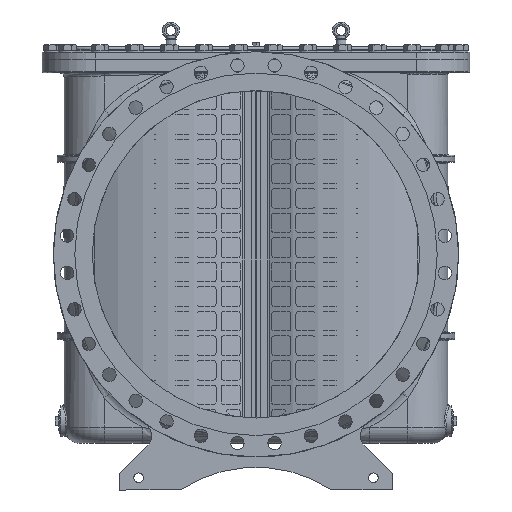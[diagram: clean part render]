
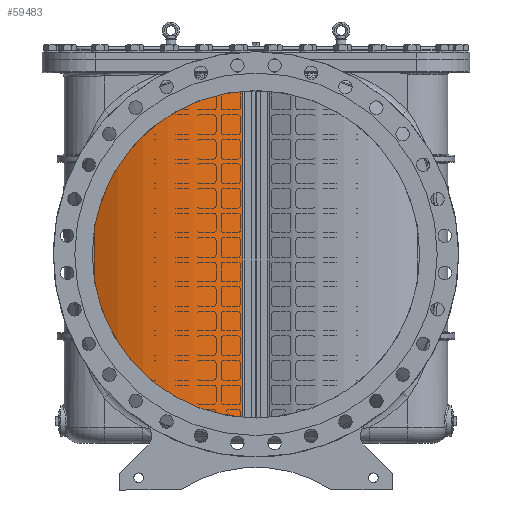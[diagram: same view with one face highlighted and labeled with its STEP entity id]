
A CAD part, front view. The second image highlights one B-rep face of the part: STEP entity #59483.
In plain terms, the highlighted cylindrical face has radius 590 mm (diameter 1180 mm), a partial arc.
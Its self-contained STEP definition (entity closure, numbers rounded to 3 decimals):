
#8647=FACE_OUTER_BOUND('',#12338,.T.);
#12338=EDGE_LOOP('',(#51676,#51677,#51678,#51679));
#16192=LINE('',#120070,#20302);
#16194=LINE('',#120073,#20304);
#20302=VECTOR('',#76845,10.);
#20304=VECTOR('',#76849,10.);
#23421=CIRCLE('',#64509,590.);
#23424=CIRCLE('',#64514,590.);
#28339=VERTEX_POINT('',#120039);
#28340=VERTEX_POINT('',#120041);
#28344=VERTEX_POINT('',#120053);
#28345=VERTEX_POINT('',#120055);
#36311=EDGE_CURVE('',#28340,#28339,#23421,.T.);
#36318=EDGE_CURVE('',#28345,#28344,#23424,.T.);
#36326=EDGE_CURVE('',#28340,#28344,#16192,.T.);
#36328=EDGE_CURVE('',#28345,#28339,#16194,.T.);
#51676=ORIENTED_EDGE('',*,*,#36311,.T.);
#51677=ORIENTED_EDGE('',*,*,#36328,.F.);
#51678=ORIENTED_EDGE('',*,*,#36318,.T.);
#51679=ORIENTED_EDGE('',*,*,#36326,.F.);
#56817=CYLINDRICAL_SURFACE('',#64520,590.);
#59483=ADVANCED_FACE('',(#8647),#56817,.T.);
#64509=AXIS2_PLACEMENT_3D('',#120042,#76816,#76817);
#64514=AXIS2_PLACEMENT_3D('',#120056,#76830,#76831);
#64520=AXIS2_PLACEMENT_3D('',#120072,#76847,#76848);
#76816=DIRECTION('center_axis',(0.,0.,-1.));
#76817=DIRECTION('ref_axis',(0.466,0.885,0.));
#76830=DIRECTION('center_axis',(0.,0.,
1.));
#76831=DIRECTION('ref_axis',(0.466,0.885,0.));
#76845=DIRECTION('',(0.,0.,-1.));
#76847=DIRECTION('center_axis',(0.,0.,1.));
#76848=DIRECTION('ref_axis',(0.466,0.885,0.));
#76849=DIRECTION('',(0.,0.,1.));
#120039=CARTESIAN_POINT('',(271.759,523.686,1364.));
#120041=CARTESIAN_POINT('',(-271.759,523.686,1364.));
#120042=CARTESIAN_POINT('Origin',(0.,0.,1364.));
#120053=CARTESIAN_POINT('',(-271.759,523.686,16.));
#120055=CARTESIAN_POINT('',(271.759,523.686,16.));
#120056=CARTESIAN_POINT('Origin',(0.,0.,16.));
#120070=CARTESIAN_POINT('',(-271.759,523.686,0.));
#120072=CARTESIAN_POINT('Origin',(0.,0.,0.));
#120073=CARTESIAN_POINT('',(271.759,523.686,0.));
